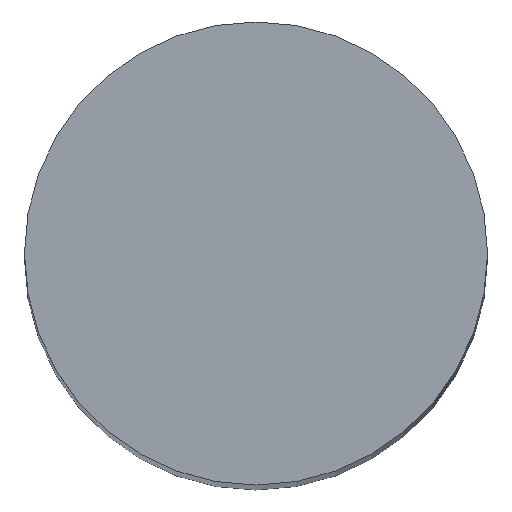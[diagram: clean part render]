
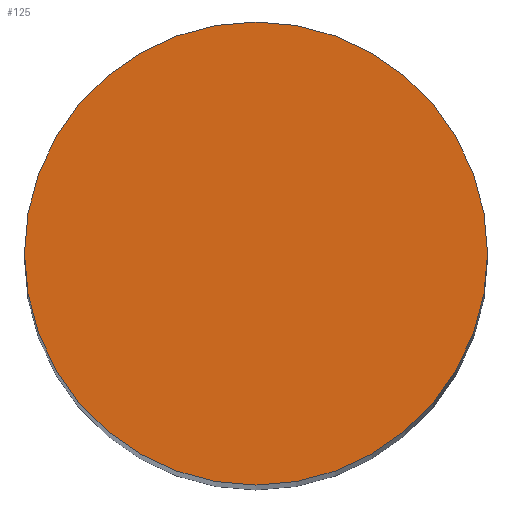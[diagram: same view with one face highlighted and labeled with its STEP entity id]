
A CAD part, top view. The second image highlights one B-rep face of the part: STEP entity #125.
In plain terms, the highlighted planar face has unit normal (0, 0, 1).
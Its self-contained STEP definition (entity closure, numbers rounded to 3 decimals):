
#1 = ORIENTED_EDGE ( 'NONE', *, *, #36, .T. ) ;
#2 = PLANE ( 'NONE',  #24 ) ;
#10 = DIRECTION ( 'NONE',  ( 1., 0., 0. ) ) ;
#18 = EDGE_CURVE ( 'NONE', #20, #166, #32, .T. ) ;
#20 = VERTEX_POINT ( 'NONE', #83 ) ;
#24 = AXIS2_PLACEMENT_3D ( 'NONE', #94, #111, #10 ) ;
#32 = CIRCLE ( 'NONE', #51, 24.3 ) ;
#36 = EDGE_CURVE ( 'NONE', #166, #20, #74, .T. ) ;
#51 = AXIS2_PLACEMENT_3D ( 'NONE', #91, #130, #108 ) ;
#53 = DIRECTION ( 'NONE',  ( 1., 0., 0. ) ) ;
#74 = CIRCLE ( 'NONE', #163, 24.3 ) ;
#78 = CARTESIAN_POINT ( 'NONE',  ( 24.3, 0., 148. ) ) ;
#82 = DIRECTION ( 'NONE',  ( 0., 0., 1. ) ) ;
#83 = CARTESIAN_POINT ( 'NONE',  ( -24.3, 0., 148. ) ) ;
#91 = CARTESIAN_POINT ( 'NONE',  ( 0., 0., 148. ) ) ;
#94 = CARTESIAN_POINT ( 'NONE',  ( 0., 0., 148. ) ) ;
#97 = ORIENTED_EDGE ( 'NONE', *, *, #18, .T. ) ;
#108 = DIRECTION ( 'NONE',  ( 1., 0., 0. ) ) ;
#109 = EDGE_LOOP ( 'NONE', ( #97, #1 ) ) ;
#111 = DIRECTION ( 'NONE',  ( 0., 0., 1. ) ) ;
#125 = ADVANCED_FACE ( 'NONE', ( #154 ), #2, .T. ) ;
#130 = DIRECTION ( 'NONE',  ( 0., 0., 1. ) ) ;
#154 = FACE_OUTER_BOUND ( 'NONE', #109, .T. ) ;
#162 = CARTESIAN_POINT ( 'NONE',  ( 0., 0., 148. ) ) ;
#163 = AXIS2_PLACEMENT_3D ( 'NONE', #162, #82, #53 ) ;
#166 = VERTEX_POINT ( 'NONE', #78 ) ;
